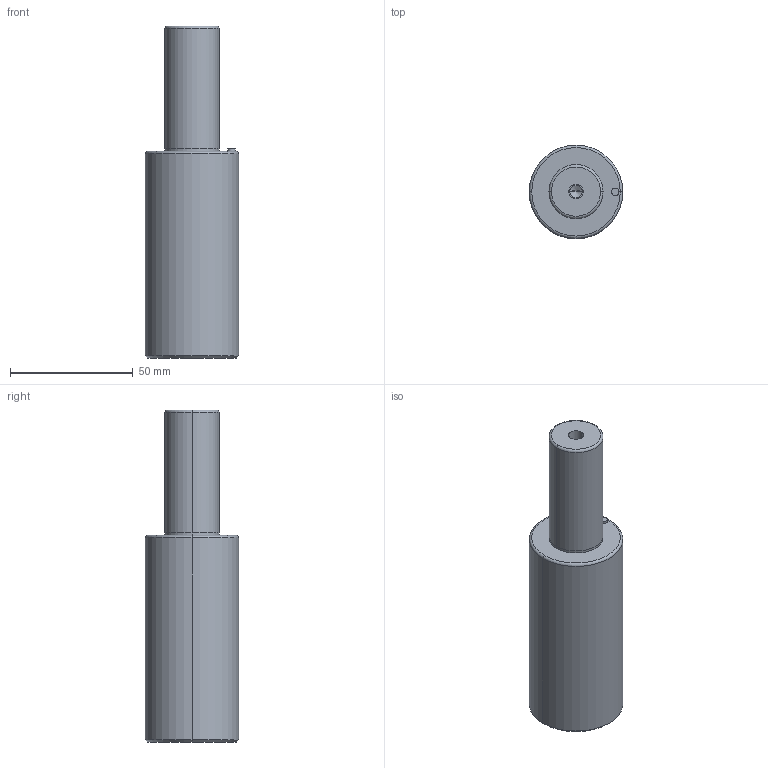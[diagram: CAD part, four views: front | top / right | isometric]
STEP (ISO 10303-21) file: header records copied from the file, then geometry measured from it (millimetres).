
FILE_DESCRIPTION(/* description */ (''),/* implementation_level */ '2;1');
FILE_NAME(/* name */ '3d_gsc38-50_03847_r00.stp',/* time_stamp */ '2011-01-10T14:15:21+09:00',/* author */ ('MISUMI'),/* organization */ (''),/* preprocessor_version */ 'ST-DEVELOPER v11',/* originating_system */ 'UGS - NX 5.0',/* authorisation */ '');
FILE_SCHEMA (('CONFIG_CONTROL_DESIGN'));
Length unit declared in the file: millimetre
Products named in the file (1): 3d_gsc38-50_03847_r00
Bounding box: 38 x 38 x 135 mm (x, y, z)
Volume: 113494.2 mm3; surface area: 16271.1 mm2
Topology: 1 solids, 1 shells, 32 faces, 66 edges, 38 vertices
Faces by surface type: cylinder 16, cone 6, plane 6, torus 4
Entity records: 912 total; most frequent: DIRECTION 168, CARTESIAN_POINT 133, ORIENTED_EDGE 124, AXIS2_PLACEMENT_3D 73, EDGE_CURVE 62, CIRCLE 40, EDGE_LOOP 38, VERTEX_POINT 38
